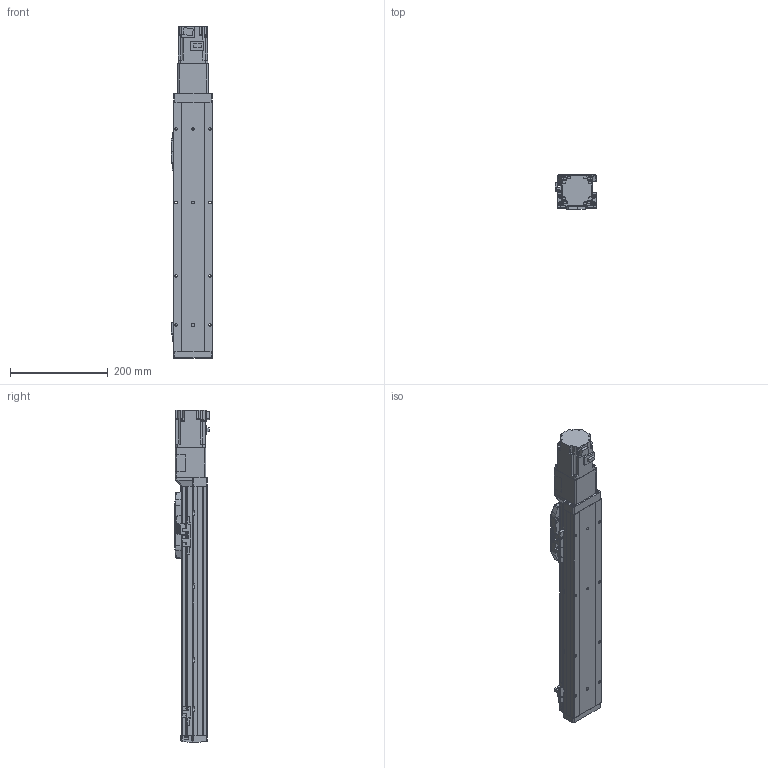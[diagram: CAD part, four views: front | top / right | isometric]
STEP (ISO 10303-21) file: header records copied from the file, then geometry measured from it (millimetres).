
FILE_DESCRIPTION (( 'STEP AP214' ), '1' );
FILE_NAME ('GSH8-350-BC-M20-1.step', '2025-01-07T06:03:31', ( '' ), ( '' ), 'SwSTEP 2.0', 'SolidWorks 2012', '' );
FILE_SCHEMA (( 'AUTOMOTIVE_DESIGN' ));
Length unit declared in the file: millimetre
Products named in the file (4): HG-KR23_200W_Motor; GSH8-GY-004; GSH8-350-BC-M20-1; GSH8-BC-011-350-M20
Assembly tree (3 placements, depth 2):
  GSH8-350-BC-M20-1
    GSH8-BC-011-350-M20
    GSH8-GY-004
    HG-KR23_200W_Motor
Bounding box: 84 x 71.3 x 677.6 mm (x, y, z)
Volume: 1533444.8 mm3; surface area: 383003.9 mm2
Topology: 3 solids, 7 shells, 1105 faces, 2918 edges, 1878 vertices
Faces by surface type: plane 640, cylinder 373, torus 38, cone 26, bspline 24, sphere 4
Entity records: 43400 total; most frequent: CARTESIAN_POINT 9801, DIRECTION 5906, ORIENTED_EDGE 5820, EDGE_CURVE 2910, AXIS2_PLACEMENT_3D 1979, VECTOR 1948, LINE 1948, VERTEX_POINT 1874
